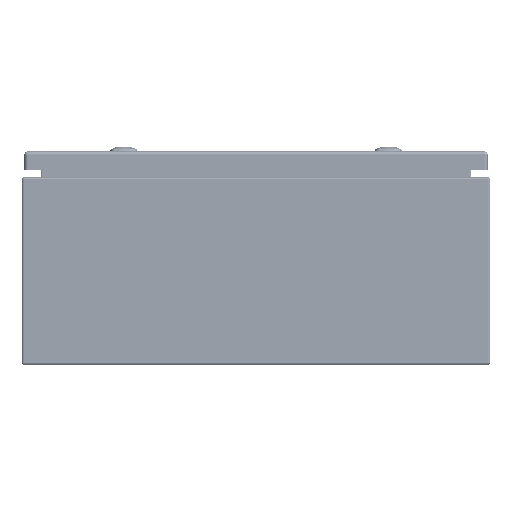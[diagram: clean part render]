
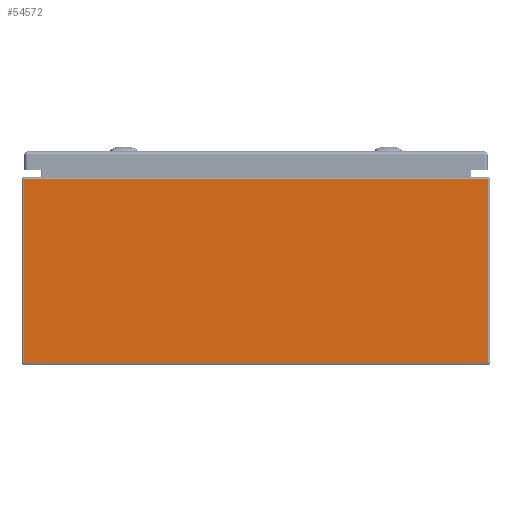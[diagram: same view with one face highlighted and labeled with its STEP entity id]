
A CAD part, left-side view. The second image highlights one B-rep face of the part: STEP entity #54572.
In plain terms, the highlighted planar face has unit normal (-1, 0, 0).
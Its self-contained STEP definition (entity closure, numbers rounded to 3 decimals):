
#5751=LINE('',#74590,#9262);
#5762=LINE('',#74631,#9273);
#5766=LINE('',#74646,#9277);
#5767=LINE('',#74647,#9278);
#9262=VECTOR('',#62861,0.394);
#9273=VECTOR('',#62910,0.394);
#9277=VECTOR('',#62928,0.394);
#9278=VECTOR('',#62929,0.394);
#13564=FACE_OUTER_BOUND('',#16839,.T.);
#16839=EDGE_LOOP('',(#36288,#36289,#36290,#36291));
#21793=VERTEX_POINT('',#74583);
#21794=VERTEX_POINT('',#74588);
#21805=VERTEX_POINT('',#74630);
#21809=VERTEX_POINT('',#74645);
#27436=EDGE_CURVE('',#21794,#21793,#5751,.T.);
#27456=EDGE_CURVE('',#21793,#21805,#5762,.T.);
#27464=EDGE_CURVE('',#21809,#21794,#5766,.T.);
#27465=EDGE_CURVE('',#21809,#21805,#5767,.T.);
#36288=ORIENTED_EDGE('',*,*,#27436,.F.);
#36289=ORIENTED_EDGE('',*,*,#27464,.F.);
#36290=ORIENTED_EDGE('',*,*,#27465,.T.);
#36291=ORIENTED_EDGE('',*,*,#27456,.F.);
#53299=PLANE('',#58679);
#54572=ADVANCED_FACE('',(#13564),#53299,.F.);
#58679=AXIS2_PLACEMENT_3D('',#74644,#62926,#62927);
#62861=DIRECTION('',(0.,-1.,0.));
#62910=DIRECTION('',(0.,0.,-1.));
#62926=DIRECTION('center_axis',(1.,0.,0.));
#62927=DIRECTION('ref_axis',(0.,0.,-1.));
#62928=DIRECTION('',(0.,0.,1.));
#62929=DIRECTION('',(0.,-1.,0.));
#74583=CARTESIAN_POINT('',(-10.,-9.916,7.916));
#74588=CARTESIAN_POINT('',(-10.,9.916,7.916));
#74590=CARTESIAN_POINT('',(-10.,-4.979,7.916));
#74630=CARTESIAN_POINT('',(-10.,-9.916,0.084));
#74631=CARTESIAN_POINT('',(-10.,-9.916,4.));
#74644=CARTESIAN_POINT('Origin',(-10.,0.,4.));
#74645=CARTESIAN_POINT('',(-10.,9.916,0.084));
#74646=CARTESIAN_POINT('',(-10.,9.916,4.));
#74647=CARTESIAN_POINT('',(-10.,5.,0.084));
